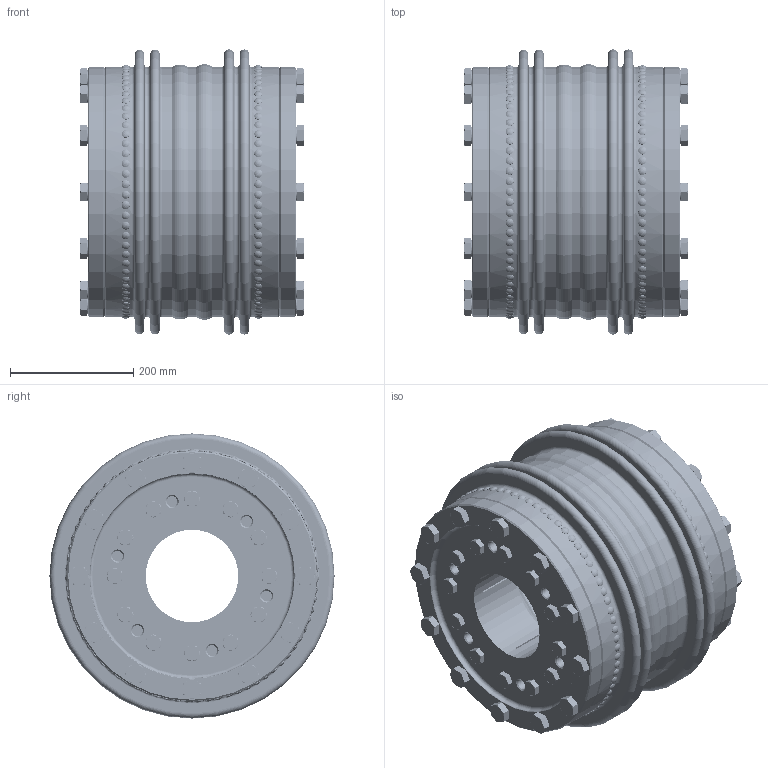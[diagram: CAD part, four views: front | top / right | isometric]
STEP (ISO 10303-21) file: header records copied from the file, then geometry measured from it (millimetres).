
FILE_DESCRIPTION(/* description */ ('Unknown'),/* implementation_level */ '2;1');
FILE_NAME(/* name */ 'KXL 32 B-B',/* time_stamp */ '2021-03-03T08:30:45+01:00',/* author */ ('Unknown'),/* organization */ ('Unknown'),/* preprocessor_version */ 'ST-DEVELOPER v16.7',/* originating_system */ 'DEX',/* authorisation */ $);
FILE_SCHEMA (('AUTOMOTIVE_DESIGN {1 0 10303 214 3 1 1}'));
Products named in the file (1): KXL 32 B-B2
Bounding box: 362 x 462 x 462 mm (x, y, z)
Volume: 16689462.2 mm3; surface area: 2608026 mm2
Topology: 1 solids, 49 shells, 2092 faces, 4533 edges, 2965 vertices
Faces by surface type: plane 846, torus 476, cylinder 364, cone 256, sphere 150
Full cylindrical faces by diameter (mm): 6.4 x150, 14 x24, 16 x24, 17 x24, 17.294 x12, 20 x24, 21 x24, 22.5 x24, 28.2 x24, 150 x2, 296 x2, 316 x2, 325 x2, 332 x4, 388 x2, 398.8 x1, 399.8 x1, 400 x2, 400.8 x1, 403.8 x1, 404.8 x1, 405 x4, 405.8 x1
Entity records: 50862 total; most frequent: CARTESIAN_POINT 12873, DIRECTION 7774, ORIENTED_EDGE 6028, FACE_BOUND 3608, EDGE_LOOP 3584, AXIS2_PLACEMENT_3D 3559, EDGE_CURVE 3014, VERTEX_POINT 2414
